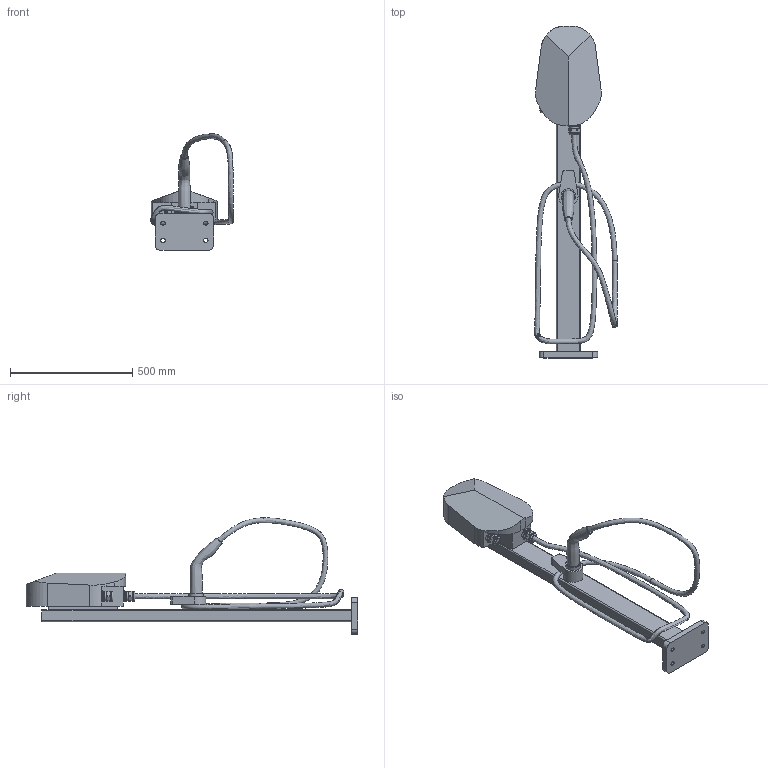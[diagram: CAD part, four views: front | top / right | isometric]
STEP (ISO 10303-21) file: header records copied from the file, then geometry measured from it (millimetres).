
FILE_DESCRIPTION(/* description */ (''),/* implementation_level */ '2;1');
FILE_NAME(/* name */ 'VEDA HC.stp',/* time_stamp */ '2024-12-26T13:15:43+04:00',/* author */ ('Александр (огранич)'),/* organization */ (''),/* preprocessor_version */ 'ST-DEVELOPER v19.2',/* originating_system */ 'Autodesk Inventor 2024',/* authorisation */ '');
FILE_SCHEMA (('AUTOMOTIVE_DESIGN { 1 0 10303 214 3 1 1 }'));
Length unit declared in the file: millimetre
Products named in the file (6): VEDA HC; Основание; Корпус блока; YSA20-25-29-54-K41 Ñàëüíèê PG 29 äè
àìåòð ïðîâîäíèê
à 18-24ìì IP54 ÈÝÊ; Пистолет; Провод
Assembly tree (6 placements, depth 2):
  VEDA HC
    Основание
    Корпус блока
    YSA20-25-29-54-K41 Ñàëüíèê PG 29 äè
àìåòð ïðîâîäíèê
à 18-24ìì IP54 ÈÝÊ  x2
    Пистолет
    Провод
Bounding box: 338.2 x 1360 x 476.59 mm (x, y, z)
Volume: 18753546.7 mm3; surface area: 1100449.1 mm2
Topology: 14 solids, 14 shells, 827 faces, 2215 edges, 1473 vertices
Faces by surface type: plane 539, bspline 151, cylinder 91, cone 44, torus 2
Full cylindrical faces by diameter (mm): 20 x1, 25 x2, 25.1 x2, 25.5 x2, 30 x2, 30.5 x2, 34.5 x2, 35.1 x2, 36 x6, 36.5 x4, 41 x2, 42 x2, 60 x1, 80 x1
Entity records: 21167 total; most frequent: CARTESIAN_POINT 10065, ORIENTED_EDGE 2420, DIRECTION 1987, EDGE_CURVE 1210, VERTEX_POINT 804, LINE 739, VECTOR 739, AXIS2_PLACEMENT_3D 624
